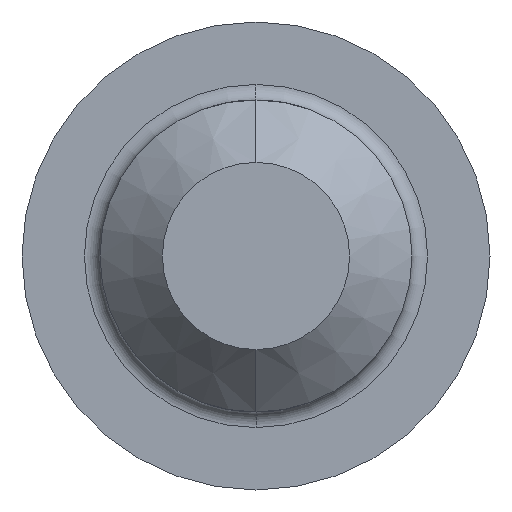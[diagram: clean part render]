
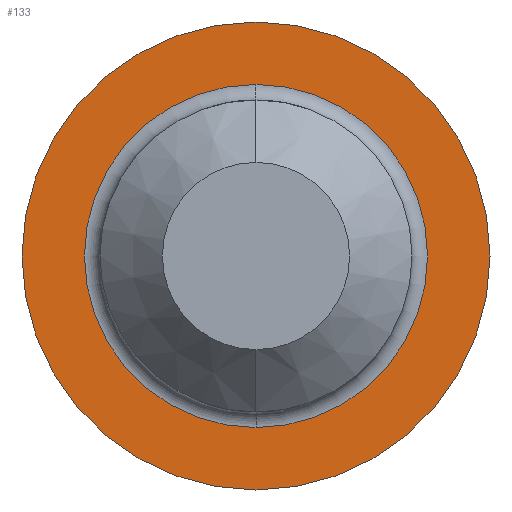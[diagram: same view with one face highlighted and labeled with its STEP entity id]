
A CAD part, left-side view. The second image highlights one B-rep face of the part: STEP entity #133.
In plain terms, the highlighted planar face has unit normal (-1, 0, 0).
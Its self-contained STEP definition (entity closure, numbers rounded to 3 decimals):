
#31 = ORIENTED_EDGE ( 'NONE', *, *, #155, .T. ) ;
#33 = VERTEX_POINT ( 'NONE', #171 ) ;
#37 = VERTEX_POINT ( 'NONE', #332 ) ;
#38 = VERTEX_POINT ( 'NONE', #348 ) ;
#65 = VERTEX_POINT ( 'NONE', #403 ) ;
#76 = EDGE_CURVE ( 'NONE', #37, #38, #297, .T. ) ;
#104 = EDGE_CURVE ( 'NONE', #65, #33, #247, .T. ) ;
#115 = EDGE_LOOP ( 'NONE', ( #134, #153 ) ) ;
#117 = EDGE_LOOP ( 'NONE', ( #31, #135 ) ) ;
#131 = EDGE_CURVE ( 'NONE', #33, #65, #369, .T. ) ;
#133 = ADVANCED_FACE ( 'NONE', ( #262, #267 ), #283, .F. ) ;
#134 = ORIENTED_EDGE ( 'NONE', *, *, #104, .T. ) ;
#135 = ORIENTED_EDGE ( 'NONE', *, *, #76, .T. ) ;
#153 = ORIENTED_EDGE ( 'NONE', *, *, #131, .T. ) ;
#155 = EDGE_CURVE ( 'NONE', #38, #37, #388, .T. ) ;
#171 = CARTESIAN_POINT ( 'NONE',  ( 0., 0., -4.5 ) ) ;
#242 = DIRECTION ( 'NONE',  ( 0., 0., 1. ) ) ;
#243 = DIRECTION ( 'NONE',  ( -1., 0., 0. ) ) ;
#244 = AXIS2_PLACEMENT_3D ( 'NONE', #252, #243, #242 ) ;
#247 = CIRCLE ( 'NONE', #244, 4.5 ) ;
#252 = CARTESIAN_POINT ( 'NONE',  ( 0., 0., 0. ) ) ;
#262 = FACE_BOUND ( 'NONE', #117, .T. ) ;
#266 = CARTESIAN_POINT ( 'NONE',  ( 0., 4.5, 0. ) ) ;
#267 = FACE_OUTER_BOUND ( 'NONE', #115, .T. ) ;
#281 = AXIS2_PLACEMENT_3D ( 'NONE', #266, #363, #362 ) ;
#283 = PLANE ( 'NONE',  #281 ) ;
#294 = DIRECTION ( 'NONE',  ( 0., 0., -1. ) ) ;
#295 = DIRECTION ( 'NONE',  ( 1., 0., 0. ) ) ;
#296 = AXIS2_PLACEMENT_3D ( 'NONE', #299, #295, #294 ) ;
#297 = CIRCLE ( 'NONE', #296, 3.3 ) ;
#299 = CARTESIAN_POINT ( 'NONE',  ( 0., 0., 0. ) ) ;
#332 = CARTESIAN_POINT ( 'NONE',  ( 0., 0., 3.3 ) ) ;
#348 = CARTESIAN_POINT ( 'NONE',  ( 0., 0., -3.3 ) ) ;
#349 = CARTESIAN_POINT ( 'NONE',  ( 0., 0., 0. ) ) ;
#362 = DIRECTION ( 'NONE',  ( 0., 0., -1. ) ) ;
#363 = DIRECTION ( 'NONE',  ( 1., 0., 0. ) ) ;
#365 = DIRECTION ( 'NONE',  ( 0., 0., 1. ) ) ;
#366 = DIRECTION ( 'NONE',  ( -1., 0., 0. ) ) ;
#367 = CARTESIAN_POINT ( 'NONE',  ( 0., 0., 0. ) ) ;
#368 = AXIS2_PLACEMENT_3D ( 'NONE', #367, #366, #365 ) ;
#369 = CIRCLE ( 'NONE', #368, 4.5 ) ;
#379 = DIRECTION ( 'NONE',  ( 0., 0., -1. ) ) ;
#380 = DIRECTION ( 'NONE',  ( 1., 0., 0. ) ) ;
#388 = CIRCLE ( 'NONE', #390, 3.3 ) ;
#390 = AXIS2_PLACEMENT_3D ( 'NONE', #349, #380, #379 ) ;
#403 = CARTESIAN_POINT ( 'NONE',  ( 0., 0., 4.5 ) ) ;
